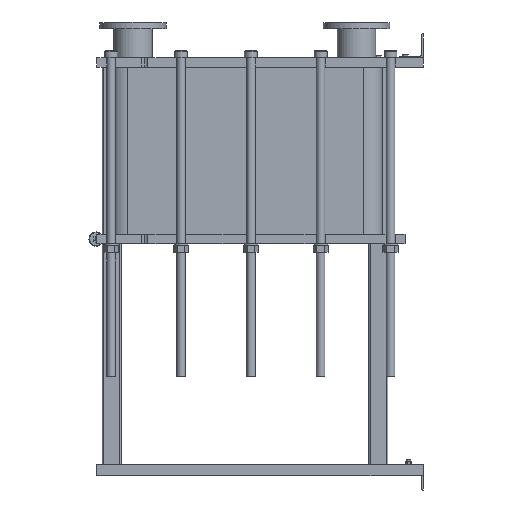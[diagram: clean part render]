
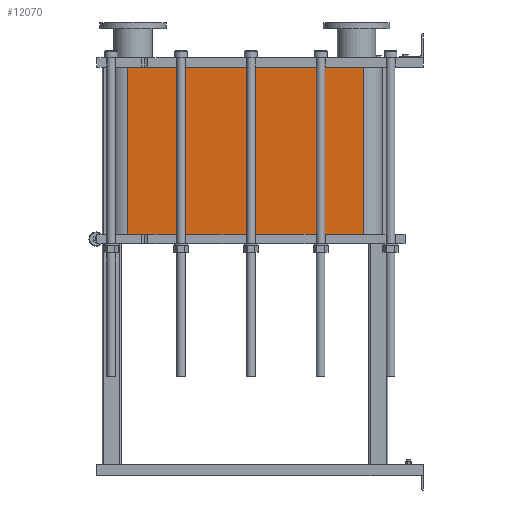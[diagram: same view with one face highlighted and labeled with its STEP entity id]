
A CAD part, left-side view. The second image highlights one B-rep face of the part: STEP entity #12070.
In plain terms, the highlighted planar face has unit normal (-1, 0, 0).
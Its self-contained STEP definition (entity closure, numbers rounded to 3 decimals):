
#1064=LINE('',#21140,#2164);
#1065=LINE('',#21144,#2165);
#1066=LINE('',#21146,#2166);
#1067=LINE('',#21147,#2167);
#2164=VECTOR('',#15790,10.);
#2165=VECTOR('',#15795,10.);
#2166=VECTOR('',#15796,10.);
#2167=VECTOR('',#15797,10.);
#3304=FACE_OUTER_BOUND('',#4091,.T.);
#4091=EDGE_LOOP('',(#9793,#9794,#9795,#9796));
#5677=VERTEX_POINT('',#21137);
#5678=VERTEX_POINT('',#21139);
#5679=VERTEX_POINT('',#21143);
#5680=VERTEX_POINT('',#21145);
#7118=EDGE_CURVE('',#5678,#5677,#1064,.T.);
#7120=EDGE_CURVE('',#5677,#5679,#1065,.T.);
#7121=EDGE_CURVE('',#5680,#5679,#1066,.T.);
#7122=EDGE_CURVE('',#5680,#5678,#1067,.T.);
#9793=ORIENTED_EDGE('',*,*,#7120,.T.);
#9794=ORIENTED_EDGE('',*,*,#7121,.F.);
#9795=ORIENTED_EDGE('',*,*,#7122,.T.);
#9796=ORIENTED_EDGE('',*,*,#7118,.T.);
#11441=PLANE('',#13191);
#12070=ADVANCED_FACE('',(#3304),#11441,.T.);
#13191=AXIS2_PLACEMENT_3D('',#21142,#15793,#15794);
#15790=DIRECTION('',(0.,0.,-1.));
#15793=DIRECTION('center_axis',(-1.,0.,0.));
#15794=DIRECTION('ref_axis',(0.,1.,0.));
#15795=DIRECTION('',(0.,-1.,0.));
#15796=DIRECTION('',(0.,0.,-1.));
#15797=DIRECTION('',(0.,1.,0.));
#21137=CARTESIAN_POINT('',(-248.152,1243.818,-703.8));
#21139=CARTESIAN_POINT('',(-248.152,1243.818,0.));
#21140=CARTESIAN_POINT('',(-248.152,1243.818,0.));
#21142=CARTESIAN_POINT('Origin',(-248.152,251.818,0.));
#21143=CARTESIAN_POINT('',(-248.152,251.818,-703.8));
#21144=CARTESIAN_POINT('',(-248.152,499.818,-703.8));
#21145=CARTESIAN_POINT('',(-248.152,251.818,0.));
#21146=CARTESIAN_POINT('',(-248.152,251.818,0.));
#21147=CARTESIAN_POINT('',(-248.152,251.818,0.));
